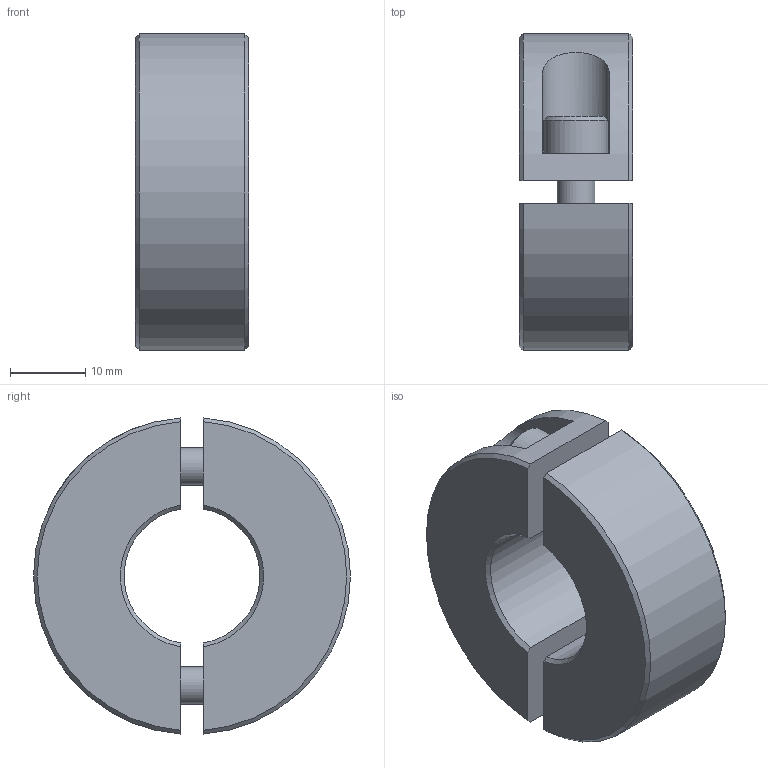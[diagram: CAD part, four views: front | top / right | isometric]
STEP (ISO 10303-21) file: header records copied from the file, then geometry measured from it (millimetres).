
FILE_DESCRIPTION(/* description */ ('STEP AP214'),/* implementation_level */ '2;1');
FILE_NAME(/* name */ 'Split Shaft Collar_ Aluminum GN 707.2-42-B18-AL',/* time_stamp */ '2024-06-10T15:26:38+02:00',/* author */ ('License CC BY-ND 4.0'),/* organization */ ('CADENAS'),/* preprocessor_version */ 'ST-DEVELOPER v19.3',/* originating_system */ 'PARTsolutions',/* authorisation */ ' ');
FILE_SCHEMA (('AUTOMOTIVE_DESIGN {1 0 10303 214 3 1 1}'));
Length unit declared in the file: millimetre
Products named in the file (1): Split Shaft Collar, Aluminum GN 707.2-42-B18-AL
Bounding box: 15 x 42 x 41.89 mm (x, y, z)
Volume: 14862.1 mm3; surface area: 6518.5 mm2
Topology: 1 solids, 3 shells, 74 faces, 172 edges, 110 vertices
Faces by surface type: plane 44, cone 16, cylinder 14
Full cylindrical faces by diameter (mm): 4.134 x2, 5 x2, 5.3 x2, 8.5 x2
Entity records: 2518 total; most frequent: CARTESIAN_POINT 393, DIRECTION 332, ORIENTED_EDGE 292, EDGE_CURVE 146, AXIS2_PLACEMENT_3D 129, VERTEX_POINT 104, FACE_BOUND 102, EDGE_LOOP 98
